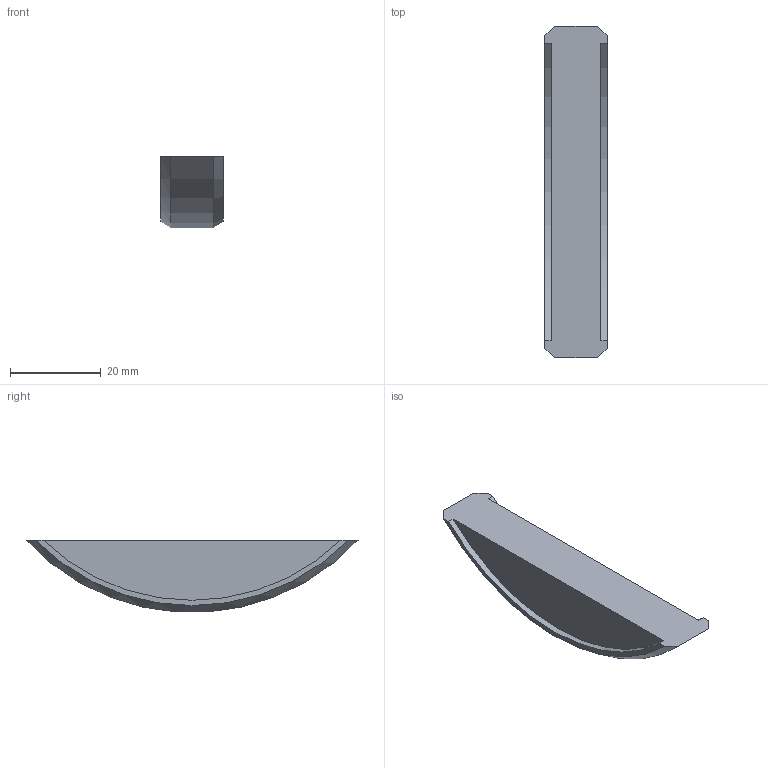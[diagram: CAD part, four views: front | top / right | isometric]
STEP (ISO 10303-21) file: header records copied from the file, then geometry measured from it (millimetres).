
FILE_DESCRIPTION(/* description */ (''),/* implementation_level */ '2;1');
FILE_NAME(/* name */ 'LC P-16x11 Profilnut.stp',/* time_stamp */ '2024-12-19T14:49:47+01:00',/* author */ ('simond'),/* organization */ (''),/* preprocessor_version */ 'ST-DEVELOPER v19.2',/* originating_system */ 'Autodesk Inventor 2023',/* authorisation */ '');
FILE_SCHEMA (('AUTOMOTIVE_DESIGN { 1 0 10303 214 3 1 1 }'));
Length unit declared in the file: millimetre
Products named in the file (1): P-14 Profilnut
Bounding box: 13.8 x 73.32 x 15.86 mm (x, y, z)
Volume: 9235.7 mm3; surface area: 3600.2 mm2
Topology: 1 solids, 1 shells, 10 faces, 24 edges, 16 vertices
Faces by surface type: plane 5, cylinder 3, cone 2
Entity records: 335 total; most frequent: CARTESIAN_POINT 59, DIRECTION 50, ORIENTED_EDGE 48, EDGE_CURVE 24, AXIS2_PLACEMENT_3D 19, VERTEX_POINT 16, LINE 12, VECTOR 12
